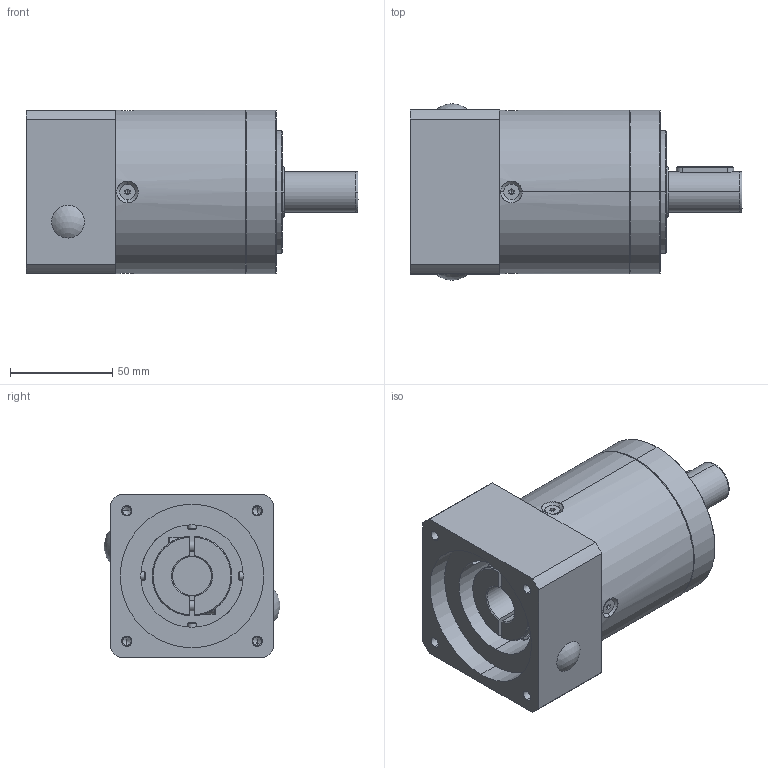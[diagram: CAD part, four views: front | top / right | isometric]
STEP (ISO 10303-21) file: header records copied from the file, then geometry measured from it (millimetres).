
FILE_DESCRIPTION (( 'STEP AP214' ), '1' );
FILE_NAME ('PLE-080-L2-S2-P2 19-70-90-M6.STEP', '2023-08-21T03:05:42', ( '微软用户' ), ( '微软中国' ), 'SwSTEP 2.0', 'SolidWorks 2018', '' );
FILE_SCHEMA (( 'AUTOMOTIVE_DESIGN' ));
Length unit declared in the file: millimetre
Products named in the file (8): PLE-080二级齿圈-外形; PLE-080输入端盖-外形70-M5-90; PLE-080黑裔; PLE-080-L2-S2-P2 19-70-90-M6; PLE-080怀堤埴傷裔-俋倛; PLE-080薊粣ん-俋倛19; hexagon socket countersunk head screws gb_GB_FASTENER_SCREWS_HSCHS M4X16-N; hexagon socket head cap screws gb_GB_FASTENER_SCREWS_HSHCS M5X16-N
Assembly tree (12 placements, depth 2):
  PLE-080-L2-S2-P2 19-70-90-M6
    PLE-080怀堤埴傷裔-俋倛
    PLE-080二级齿圈-外形
    PLE-080输入端盖-外形70-M5-90
    PLE-080薊粣ん-俋倛19
    hexagon socket countersunk head screws gb_GB_FASTENER_SCREWS_HSCHS M4X16-N  x4
    PLE-080黑裔  x2
    hexagon socket head cap screws gb_GB_FASTENER_SCREWS_HSHCS M5X16-N  x2
Bounding box: 162 x 86 x 80 mm (x, y, z)
Volume: 425936.8 mm3; surface area: 96119.7 mm2
Topology: 13 solids, 13 shells, 377 faces, 899 edges, 549 vertices
Faces by surface type: plane 139, cylinder 134, cone 76, torus 18, sphere 10
Entity records: 11789 total; most frequent: CARTESIAN_POINT 2715, DIRECTION 1354, ORIENTED_EDGE 1192, EDGE_CURVE 596, AXIS2_PLACEMENT_3D 543, VERTEX_POINT 381, EDGE_LOOP 303, CIRCLE 273
